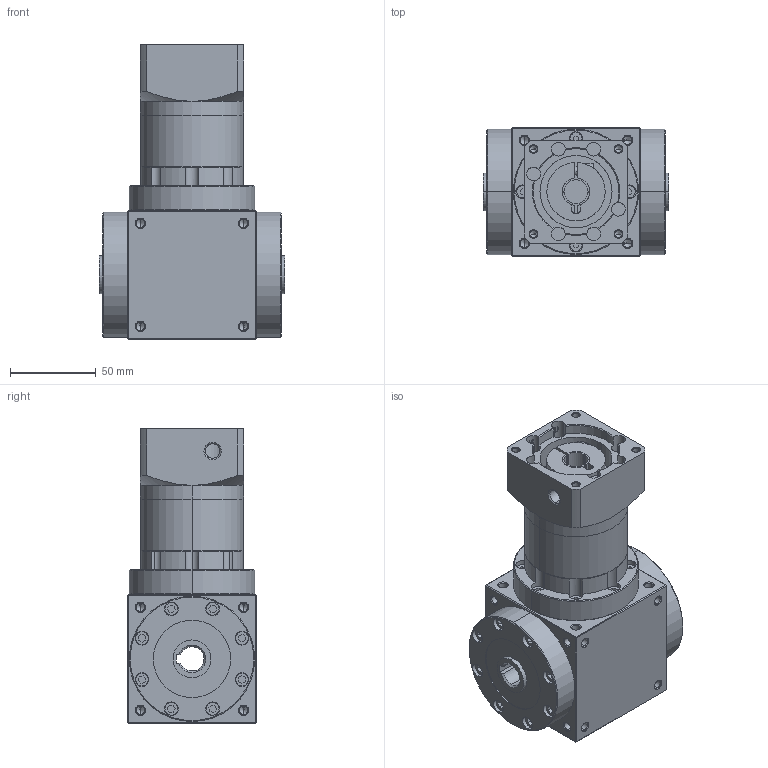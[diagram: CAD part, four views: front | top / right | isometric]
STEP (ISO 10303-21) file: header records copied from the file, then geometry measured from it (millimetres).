
FILE_DESCRIPTION (( 'STEP AP203' ), '1' );
FILE_NAME ('AT075-FH-L3-14-50-70M5.STEP', '2025-08-13T01:32:00', ( 'Windows User' ), ( 'P R C' ), 'SwSTEP 2.0', 'SolidWorks 2016', '' );
FILE_SCHEMA (( 'CONFIG_CONTROL_DESIGN' ));
Length unit declared in the file: millimetre
Products named in the file (6): AT75FH-转角箱体-批量-孔输出; AT75-怀堤楊擘-蠶講; 输入胀套-16; AT075-双级齿圈; AT075-输入法兰-B-50-M5-70; AT075-FH-L3-14-50-70M5
Assembly tree (5 placements, depth 2):
  AT075-FH-L3-14-50-70M5
    AT75FH-转角箱体-批量-孔输出
    AT75-怀堤楊擘-蠶講
    输入胀套-16
    AT075-双级齿圈
    AT075-输入法兰-B-50-M5-70
Bounding box: 108 x 75 x 171.5 mm (x, y, z)
Volume: 580448.6 mm3; surface area: 142317.9 mm2
Topology: 5 solids, 21 shells, 1604 faces, 4103 edges, 2571 vertices
Faces by surface type: plane 767, cylinder 385, cone 298, bspline 154
Entity records: 54759 total; most frequent: CARTESIAN_POINT 16686, ORIENTED_EDGE 7974, DIRECTION 7301, EDGE_CURVE 3987, VERTEX_POINT 2571, LINE 2495, VECTOR 2495, AXIS2_PLACEMENT_3D 2403
